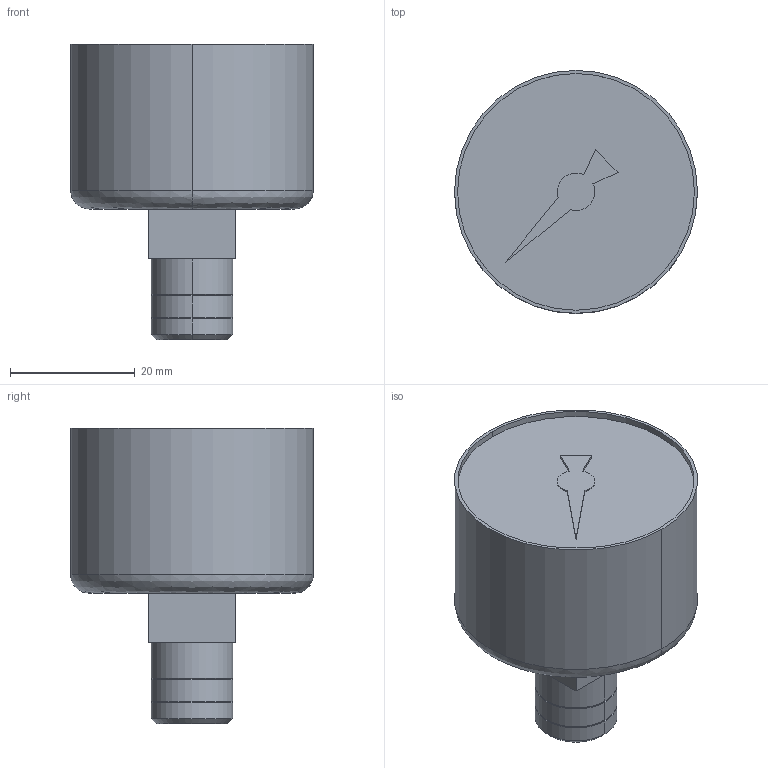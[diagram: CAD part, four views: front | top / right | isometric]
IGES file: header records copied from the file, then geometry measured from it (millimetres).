
Start section:  PTC IGES file: R412004407\r412004407.iges
Global section: file name: R412004407\r412004407.iges; native system: Creo Parametric by PTC Inc.; preprocessor: 2020044; author: THD3HC; organization: Unknown; date: 20231114.161658; units: millimetre
Bounding box: 39 x 39 x 47.5 mm (x, y, z)
Surface area: 6696.7 mm2 (no closed solid volume)
Topology: 0 solids, 0 shells, 42 faces, 178 edges, 178 vertices
Faces by surface type: revolution 26, bspline 16
